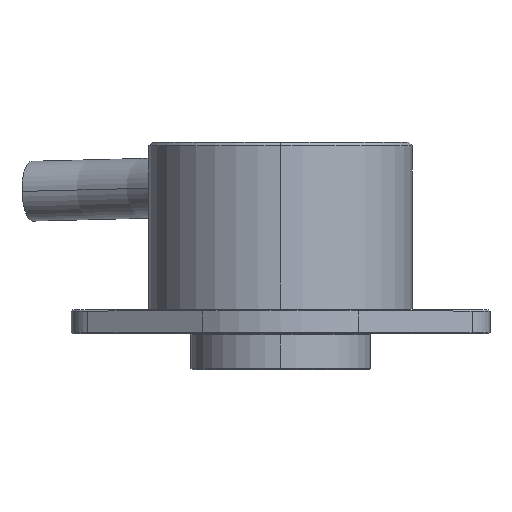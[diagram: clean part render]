
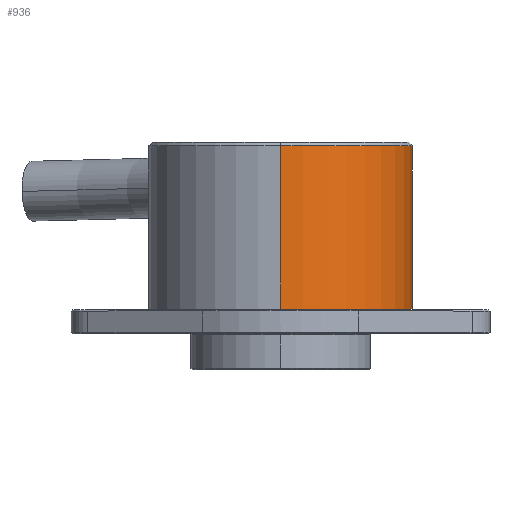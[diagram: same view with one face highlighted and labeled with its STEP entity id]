
A CAD part, top view. The second image highlights one B-rep face of the part: STEP entity #936.
In plain terms, the highlighted cylindrical face has radius 11 mm (diameter 22 mm), a partial arc.
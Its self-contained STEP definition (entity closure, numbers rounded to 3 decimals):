
#62 = LINE ( 'NONE', #1535, #1655 ) ;
#74 = CARTESIAN_POINT ( 'NONE',  ( 0., 18.7, 0. ) ) ;
#110 = LINE ( 'NONE', #1296, #940 ) ;
#116 = CARTESIAN_POINT ( 'NONE',  ( 2.372, 16.308, -10.741 ) ) ;
#185 = LINE ( 'NONE', #516, #1838 ) ;
#187 = CARTESIAN_POINT ( 'NONE',  ( 0.329, 17.984, -10.996 ) ) ;
#201 = CARTESIAN_POINT ( 'NONE',  ( 2.5, 15.5, -10.712 ) ) ;
#240 = CARTESIAN_POINT ( 'NONE',  ( 1.988, 13.975, -10.819 ) ) ;
#242 = ORIENTED_EDGE ( 'NONE', *, *, #766, .T. ) ;
#295 = DIRECTION ( 'NONE',  ( 0., 0., 1. ) ) ;
#323 = CARTESIAN_POINT ( 'NONE',  ( 0., 18., -11. ) ) ;
#324 = CARTESIAN_POINT ( 'NONE',  ( 1.883, 17.152, -10.838 ) ) ;
#346 = CARTESIAN_POINT ( 'NONE',  ( 2.42, 16.148, -10.731 ) ) ;
#383 = ORIENTED_EDGE ( 'NONE', *, *, #1451, .F. ) ;
#431 = CARTESIAN_POINT ( 'NONE',  ( 2.5, 15.17, -10.712 ) ) ;
#446 = ORIENTED_EDGE ( 'NONE', *, *, #867, .T. ) ;
#449 = CARTESIAN_POINT ( 'NONE',  ( 0., 13., -11. ) ) ;
#454 = VERTEX_POINT ( 'NONE', #323 ) ;
#502 = CARTESIAN_POINT ( 'NONE',  ( 1.255, 13.332, -10.929 ) ) ;
#516 = CARTESIAN_POINT ( 'NONE',  ( 0., 19., 11. ) ) ;
#554 = CARTESIAN_POINT ( 'NONE',  ( 1.988, 17.025, -10.819 ) ) ;
#566 = ORIENTED_EDGE ( 'NONE', *, *, #623, .T. ) ;
#623 = EDGE_CURVE ( 'NONE', #898, #1216, #1418, .T. ) ;
#635 = CARTESIAN_POINT ( 'NONE',  ( 0., 5.05, 0. ) ) ;
#638 = CARTESIAN_POINT ( 'NONE',  ( 1.109, 13.253, -10.945 ) ) ;
#641 = CIRCLE ( 'NONE', #1282, 11. ) ;
#683 = FACE_OUTER_BOUND ( 'NONE', #1232, .T. ) ;
#715 = CARTESIAN_POINT ( 'NONE',  ( 1.539, 17.497, -10.894 ) ) ;
#746 = CARTESIAN_POINT ( 'NONE',  ( 2.484, 15.827, -10.716 ) ) ;
#755 = DIRECTION ( 'NONE',  ( 0., 0., 1. ) ) ;
#766 = EDGE_CURVE ( 'NONE', #1989, #877, #641, .T. ) ;
#795 = CARTESIAN_POINT ( 'NONE',  ( 0.657, 13.066, -10.985 ) ) ;
#796 = CARTESIAN_POINT ( 'NONE',  ( 0., 18.7, -11. ) ) ;
#833 = ORIENTED_EDGE ( 'NONE', *, *, #1163, .T. ) ;
#863 = CARTESIAN_POINT ( 'NONE',  ( 0., 19., 0. ) ) ;
#865 = CARTESIAN_POINT ( 'NONE',  ( 0.81, 17.871, -10.971 ) ) ;
#867 = EDGE_CURVE ( 'NONE', #1530, #1634, #1007, .T. ) ;
#877 = VERTEX_POINT ( 'NONE', #942 ) ;
#898 = VERTEX_POINT ( 'NONE', #1696 ) ;
#899 = CARTESIAN_POINT ( 'NONE',  ( 0.651, 17.919, -10.982 ) ) ;
#915 = DIRECTION ( 'NONE',  ( 0., 1., 0. ) ) ;
#936 = ADVANCED_FACE ( 'NONE', ( #683 ), #1434, .T. ) ;
#940 = VECTOR ( 'NONE', #1380, 1000. ) ;
#942 = CARTESIAN_POINT ( 'NONE',  ( 0., 18.7, 11. ) ) ;
#960 = CARTESIAN_POINT ( 'NONE',  ( 2.246, 14.389, -10.769 ) ) ;
#981 = CARTESIAN_POINT ( 'NONE',  ( 2.169, 14.245, -10.785 ) ) ;
#1007 = CIRCLE ( 'NONE', #1847, 11. ) ;
#1123 = ORIENTED_EDGE ( 'NONE', *, *, #1489, .F. ) ;
#1136 = B_SPLINE_CURVE_WITH_KNOTS ( 'NONE', 3,
 ( #201, #1831, #746, #346, #116, #1423, #1744, #554, #324, #715, #1881, #865, #899, #187, #1266, #1229 ),
 .UNSPECIFIED., .F., .F.,
 ( 4, 2, 2, 2, 2, 2, 2, 4 ),
 ( 0.012, 0.012, 0.013, 0.013, 0.014, 0.015, 0.015, 0.016 ),
 .UNSPECIFIED. ) ;
#1161 = CARTESIAN_POINT ( 'NONE',  ( 1.526, 13.513, -10.894 ) ) ;
#1163 = EDGE_CURVE ( 'NONE', #1216, #454, #1136, .T. ) ;
#1203 = CARTESIAN_POINT ( 'NONE',  ( 1.652, 13.616, -10.876 ) ) ;
#1216 = VERTEX_POINT ( 'NONE', #1617 ) ;
#1229 = CARTESIAN_POINT ( 'NONE',  ( 0., 18., -11. ) ) ;
#1232 = EDGE_LOOP ( 'NONE', ( #242, #1430, #446, #1123, #566, #833, #383 ) ) ;
#1266 = CARTESIAN_POINT ( 'NONE',  ( 0.166, 18., -11. ) ) ;
#1271 = CARTESIAN_POINT ( 'NONE',  ( 0., 5.05, -11. ) ) ;
#1282 = AXIS2_PLACEMENT_3D ( 'NONE', #74, #1389, #755 ) ;
#1291 = DIRECTION ( 'NONE',  ( 0., -1., 0. ) ) ;
#1296 = CARTESIAN_POINT ( 'NONE',  ( 0., 19., -11. ) ) ;
#1331 = CARTESIAN_POINT ( 'NONE',  ( 2.435, 14.845, -10.728 ) ) ;
#1380 = DIRECTION ( 'NONE',  ( 0., -1., 0. ) ) ;
#1389 = DIRECTION ( 'NONE',  ( 0., -1., 0. ) ) ;
#1412 = CARTESIAN_POINT ( 'NONE',  ( 1.883, 13.847, -10.838 ) ) ;
#1418 = B_SPLINE_CURVE_WITH_KNOTS ( 'NONE', 3,
 ( #449, #1533, #795, #638, #502, #1161, #1203, #1412, #240, #981, #960, #1331, #431, #1583 ),
 .UNSPECIFIED., .F., .F.,
 ( 4, 2, 2, 2, 2, 2, 4 ),
 ( 0.008, 0.009, 0.009, 0.01, 0.01, 0.011, 0.012 ),
 .UNSPECIFIED. ) ;
#1423 = CARTESIAN_POINT ( 'NONE',  ( 2.246, 16.609, -10.768 ) ) ;
#1430 = ORIENTED_EDGE ( 'NONE', *, *, #1497, .T. ) ;
#1434 = CYLINDRICAL_SURFACE ( 'NONE', #1792, 11. ) ;
#1451 = EDGE_CURVE ( 'NONE', #1989, #454, #62, .T. ) ;
#1489 = EDGE_CURVE ( 'NONE', #898, #1634, #110, .T. ) ;
#1496 = DIRECTION ( 'NONE',  ( 0., -1., 0. ) ) ;
#1497 = EDGE_CURVE ( 'NONE', #877, #1530, #185, .T. ) ;
#1530 = VERTEX_POINT ( 'NONE', #1650 ) ;
#1533 = CARTESIAN_POINT ( 'NONE',  ( 0.327, 13., -11. ) ) ;
#1535 = CARTESIAN_POINT ( 'NONE',  ( 0., 19., -11. ) ) ;
#1583 = CARTESIAN_POINT ( 'NONE',  ( 2.5, 15.5, -10.712 ) ) ;
#1617 = CARTESIAN_POINT ( 'NONE',  ( 2.5, 15.5, -10.712 ) ) ;
#1634 = VERTEX_POINT ( 'NONE', #1271 ) ;
#1650 = CARTESIAN_POINT ( 'NONE',  ( 0., 5.05, 11. ) ) ;
#1655 = VECTOR ( 'NONE', #1291, 1000. ) ;
#1696 = CARTESIAN_POINT ( 'NONE',  ( 0., 13., -11. ) ) ;
#1716 = DIRECTION ( 'NONE',  ( 0., 0., -1. ) ) ;
#1744 = CARTESIAN_POINT ( 'NONE',  ( 2.17, 16.753, -10.784 ) ) ;
#1792 = AXIS2_PLACEMENT_3D ( 'NONE', #863, #1862, #1716 ) ;
#1831 = CARTESIAN_POINT ( 'NONE',  ( 2.5, 15.665, -10.712 ) ) ;
#1838 = VECTOR ( 'NONE', #1496, 1000. ) ;
#1847 = AXIS2_PLACEMENT_3D ( 'NONE', #635, #915, #295 ) ;
#1862 = DIRECTION ( 'NONE',  ( 0., -1., 0. ) ) ;
#1881 = CARTESIAN_POINT ( 'NONE',  ( 1.261, 17.683, -10.932 ) ) ;
#1989 = VERTEX_POINT ( 'NONE', #796 ) ;
